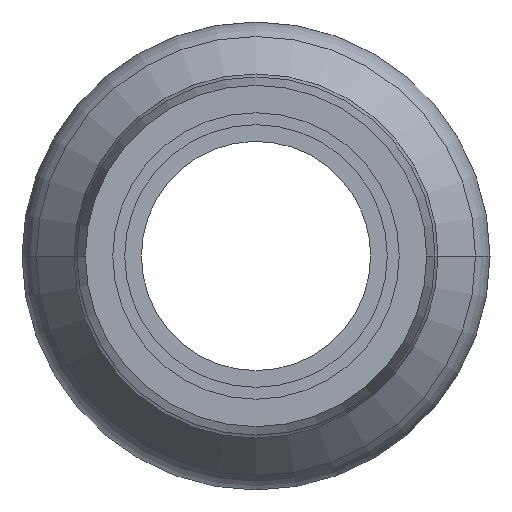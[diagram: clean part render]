
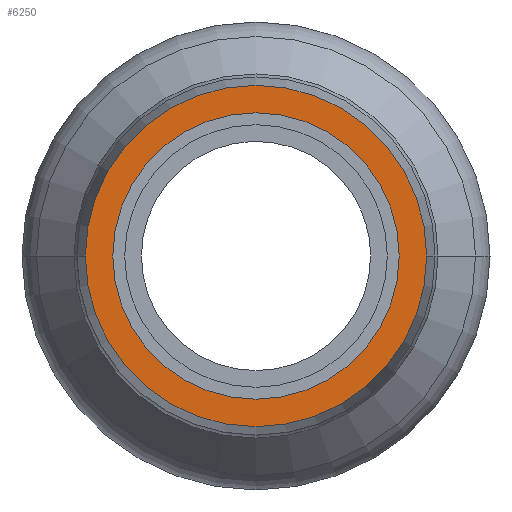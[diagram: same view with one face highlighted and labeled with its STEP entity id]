
A CAD part, front view. The second image highlights one B-rep face of the part: STEP entity #6250.
In plain terms, the highlighted planar face has unit normal (0, -1, 0).
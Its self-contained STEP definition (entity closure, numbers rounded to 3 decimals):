
#4470=CARTESIAN_POINT('',(-90.923,-0.26,0.));
#4480=VERTEX_POINT('',#4470);
#4660=CARTESIAN_POINT('',(-105.218,-0.26,
0.));
#4670=VERTEX_POINT('',#4660);
#4700=CARTESIAN_POINT('',(-98.071,-0.26,0.));
#4710=DIRECTION('',(0.,-1.,0.));
#4720=DIRECTION('',(-1.,0.,0.));
#4730=AXIS2_PLACEMENT_3D('',#4700,#4710,#4720);
#4740=CIRCLE('',#4730,7.147);
#4750=EDGE_CURVE('',#4670,#4480,#4740,.T.);
#6000=CARTESIAN_POINT('',(-101.578,-0.26,
4.74));
#6010=DIRECTION('',(0.,-1.,0.));
#6020=DIRECTION('',(1.,0.,0.));
#6030=AXIS2_PLACEMENT_3D('',#6000,#6010,#6020);
#6040=PLANE('',#6030);
#6050=CARTESIAN_POINT('',(-98.071,-0.26,0.));
#6060=DIRECTION('',(0.,-1.,0.));
#6070=DIRECTION('',(1.,0.,0.));
#6080=AXIS2_PLACEMENT_3D('',#6050,#6060,#6070);
#6090=CIRCLE('',#6080,6.);
#6100=CARTESIAN_POINT('',(-92.071,-0.26,0.));
#6110=VERTEX_POINT('',#6100);
#6120=CARTESIAN_POINT('',(-104.071,-0.26,
0.));
#6130=VERTEX_POINT('',#6120);
#6140=EDGE_CURVE('',#6110,#6130,#6090,.T.);
#6150=ORIENTED_EDGE('',*,*,#6140,.F.);
#6160=EDGE_CURVE('',#6130,#6110,#6090,.T.);
#6170=ORIENTED_EDGE('',*,*,#6160,.F.);
#6180=EDGE_LOOP('',(#6170,#6150));
#6190=FACE_BOUND('',#6180,.T.);
#6200=EDGE_CURVE('',#4480,#4670,#4740,.T.);
#6210=ORIENTED_EDGE('',*,*,#6200,.T.);
#6220=ORIENTED_EDGE('',*,*,#4750,.T.);
#6230=EDGE_LOOP('',(#6220,#6210));
#6240=FACE_OUTER_BOUND('',#6230,.T.);
#6250=ADVANCED_FACE('',(#6190,#6240),#6040,.T.);
